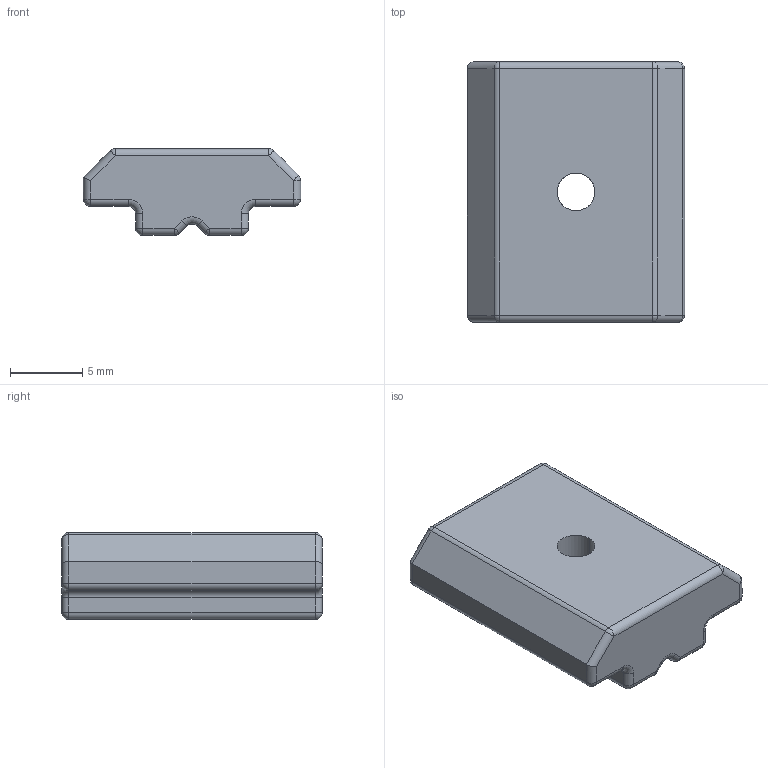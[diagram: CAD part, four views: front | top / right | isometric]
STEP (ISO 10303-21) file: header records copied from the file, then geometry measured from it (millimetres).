
FILE_DESCRIPTION (( 'STEP AP203' ), '1' );
FILE_NAME ('5184.STEP', '2016-04-22T15:47:55', ( '' ), ( '' ), 'SwSTEP 2.0', 'SolidWorks 2014', '' );
FILE_SCHEMA (( 'CONFIG_CONTROL_DESIGN' ));
Length unit declared in the file: millimetre
Products named in the file (1): 5184
Bounding box: 15 x 18 x 6 mm (x, y, z)
Volume: 1235.7 mm3; surface area: 858.9 mm2
Topology: 1 solids, 1 shells, 84 faces, 199 edges, 98 vertices
Faces by surface type: cylinder 43, sphere 18, plane 17, torus 6
Entity records: 2328 total; most frequent: DIRECTION 423, CARTESIAN_POINT 416, ORIENTED_EDGE 362, EDGE_CURVE 181, AXIS2_PLACEMENT_3D 169, VERTEX_POINT 98, EDGE_LOOP 85, VECTOR 85
